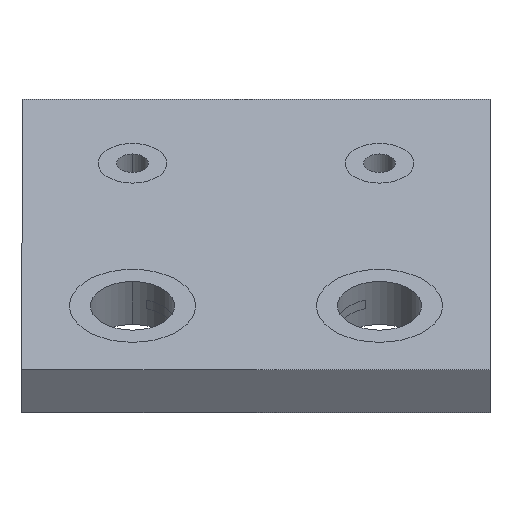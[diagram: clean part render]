
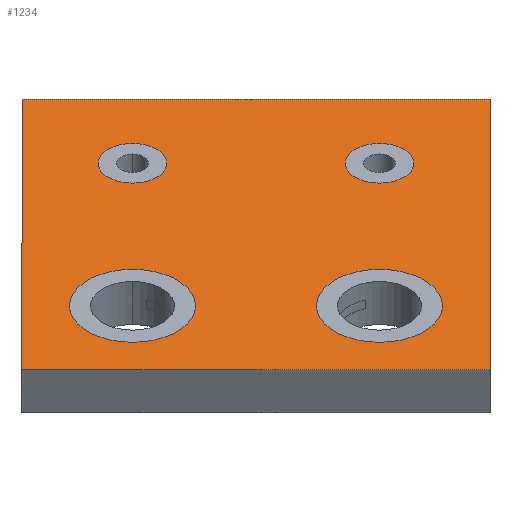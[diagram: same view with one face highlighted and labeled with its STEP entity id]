
A CAD part, isometric view. The second image highlights one B-rep face of the part: STEP entity #1234.
In plain terms, the highlighted planar face has unit normal (0, 0, 1).
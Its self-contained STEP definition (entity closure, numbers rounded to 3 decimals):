
#23 = FACE_BOUND ( 'NONE', #904, .T. ) ;
#56 = VECTOR ( 'NONE', #3299, 1000. ) ;
#77 = ORIENTED_EDGE ( 'NONE', *, *, #2827, .T. ) ;
#103 = ORIENTED_EDGE ( 'NONE', *, *, #1585, .T. ) ;
#198 = CARTESIAN_POINT ( 'NONE',  ( 0., 6.296, 21.48 ) ) ;
#203 = EDGE_CURVE ( 'NONE', #235, #327, #3355, .T. ) ;
#208 = VERTEX_POINT ( 'NONE', #4076 ) ;
#235 = VERTEX_POINT ( 'NONE', #4057 ) ;
#289 = CIRCLE ( 'NONE', #837, 0.655 ) ;
#290 = CARTESIAN_POINT ( 'NONE',  ( 3.148, 3.148, 21.48 ) ) ;
#327 = VERTEX_POINT ( 'NONE', #2207 ) ;
#354 = ORIENTED_EDGE ( 'NONE', *, *, #2299, .T. ) ;
#358 = EDGE_CURVE ( 'NONE', #1091, #208, #2826, .T. ) ;
#392 = CARTESIAN_POINT ( 'NONE',  ( -0.849, -2.475, 21.48 ) ) ;
#440 = CIRCLE ( 'NONE', #3989, 1.2 ) ;
#591 = DIRECTION ( 'NONE',  ( 0., 0., -1. ) ) ;
#606 = ORIENTED_EDGE ( 'NONE', *, *, #2348, .T. ) ;
#618 = DIRECTION ( 'NONE',  ( 0.707, -0.707, 0. ) ) ;
#636 = FACE_OUTER_BOUND ( 'NONE', #3003, .T. ) ;
#642 = CARTESIAN_POINT ( 'NONE',  ( 3.323, 0., 21.48 ) ) ;
#648 = LINE ( 'NONE', #1978, #56 ) ;
#756 = CARTESIAN_POINT ( 'NONE',  ( 0., -3.323, 21.48 ) ) ;
#837 = AXIS2_PLACEMENT_3D ( 'NONE', #1613, #591, #2544 ) ;
#859 = VECTOR ( 'NONE', #4225, 1000. ) ;
#904 = EDGE_LOOP ( 'NONE', ( #2729, #1711 ) ) ;
#906 = VERTEX_POINT ( 'NONE', #2436 ) ;
#943 = DIRECTION ( 'NONE',  ( 0., 0., -1. ) ) ;
#975 = EDGE_CURVE ( 'NONE', #3609, #906, #289, .T. ) ;
#1060 = VERTEX_POINT ( 'NONE', #4224 ) ;
#1075 = EDGE_LOOP ( 'NONE', ( #103, #1469 ) ) ;
#1091 = VERTEX_POINT ( 'NONE', #198 ) ;
#1098 = EDGE_CURVE ( 'NONE', #1825, #4055, #1303, .T. ) ;
#1104 = ORIENTED_EDGE ( 'NONE', *, *, #3165, .T. ) ;
#1108 = DIRECTION ( 'NONE',  ( 0., 0., -1. ) ) ;
#1162 = VECTOR ( 'NONE', #4140, 1000. ) ;
#1197 = CARTESIAN_POINT ( 'NONE',  ( -3.148, -3.148, 21.48 ) ) ;
#1234 = ADVANCED_FACE ( 'NONE', ( #2999, #23, #3345, #2694, #636 ), #2371, .T. ) ;
#1290 = EDGE_CURVE ( 'NONE', #2405, #1060, #2019, .T. ) ;
#1303 = CIRCLE ( 'NONE', #2272, 0.655 ) ;
#1311 = CARTESIAN_POINT ( 'NONE',  ( 3.323, 0., 21.48 ) ) ;
#1331 = DIRECTION ( 'NONE',  ( 0., 0., -1. ) ) ;
#1374 = ORIENTED_EDGE ( 'NONE', *, *, #1290, .T. ) ;
#1426 = CARTESIAN_POINT ( 'NONE',  ( -3.323, 0., 21.48 ) ) ;
#1469 = ORIENTED_EDGE ( 'NONE', *, *, #975, .T. ) ;
#1585 = EDGE_CURVE ( 'NONE', #906, #3609, #4120, .T. ) ;
#1593 = LINE ( 'NONE', #290, #859 ) ;
#1613 = CARTESIAN_POINT ( 'NONE',  ( 0., 3.323, 21.48 ) ) ;
#1656 = DIRECTION ( 'NONE',  ( 0.707, -0.707, 0. ) ) ;
#1665 = AXIS2_PLACEMENT_3D ( 'NONE', #642, #943, #3531 ) ;
#1711 = ORIENTED_EDGE ( 'NONE', *, *, #1098, .T. ) ;
#1725 = DIRECTION ( 'NONE',  ( 1., 0., 0. ) ) ;
#1747 = CARTESIAN_POINT ( 'NONE',  ( 3.787, -0.463, 21.48 ) ) ;
#1825 = VERTEX_POINT ( 'NONE', #3553 ) ;
#1833 = AXIS2_PLACEMENT_3D ( 'NONE', #4124, #2532, #3866 ) ;
#1838 = VECTOR ( 'NONE', #618, 1000. ) ;
#1847 = EDGE_CURVE ( 'NONE', #4055, #1825, #3393, .T. ) ;
#1881 = CARTESIAN_POINT ( 'NONE',  ( -3.148, 3.148, 21.48 ) ) ;
#1934 = AXIS2_PLACEMENT_3D ( 'NONE', #1426, #3673, #3396 ) ;
#1978 = CARTESIAN_POINT ( 'NONE',  ( 3.148, -3.148, 21.48 ) ) ;
#2019 = CIRCLE ( 'NONE', #2570, 1.2 ) ;
#2044 = CARTESIAN_POINT ( 'NONE',  ( -3.323, 0., 21.48 ) ) ;
#2160 = DIRECTION ( 'NONE',  ( -0.707, 0.707, 0. ) ) ;
#2161 = AXIS2_PLACEMENT_3D ( 'NONE', #3366, #4290, #1725 ) ;
#2207 = CARTESIAN_POINT ( 'NONE',  ( -2.475, 0.849, 21.48 ) ) ;
#2218 = EDGE_LOOP ( 'NONE', ( #1374, #77 ) ) ;
#2246 = ORIENTED_EDGE ( 'NONE', *, *, #358, .T. ) ;
#2272 = AXIS2_PLACEMENT_3D ( 'NONE', #1311, #1331, #1656 ) ;
#2298 = ORIENTED_EDGE ( 'NONE', *, *, #3661, .T. ) ;
#2299 = EDGE_CURVE ( 'NONE', #3424, #1091, #1593, .T. ) ;
#2336 = AXIS2_PLACEMENT_3D ( 'NONE', #2044, #3658, #3364 ) ;
#2348 = EDGE_CURVE ( 'NONE', #208, #2836, #3594, .T. ) ;
#2371 = PLANE ( 'NONE',  #2161 ) ;
#2405 = VERTEX_POINT ( 'NONE', #392 ) ;
#2436 = CARTESIAN_POINT ( 'NONE',  ( 0.463, 3.787, 21.48 ) ) ;
#2532 = DIRECTION ( 'NONE',  ( 0., 0., -1. ) ) ;
#2544 = DIRECTION ( 'NONE',  ( 0.707, 0.707, 0. ) ) ;
#2570 = AXIS2_PLACEMENT_3D ( 'NONE', #756, #3787, #4067 ) ;
#2694 = FACE_BOUND ( 'NONE', #2218, .T. ) ;
#2729 = ORIENTED_EDGE ( 'NONE', *, *, #1847, .T. ) ;
#2826 = LINE ( 'NONE', #1881, #1162 ) ;
#2827 = EDGE_CURVE ( 'NONE', #1060, #2405, #440, .T. ) ;
#2836 = VERTEX_POINT ( 'NONE', #3133 ) ;
#2999 = FACE_BOUND ( 'NONE', #1075, .T. ) ;
#3003 = EDGE_LOOP ( 'NONE', ( #354, #2246, #606, #2298 ) ) ;
#3133 = CARTESIAN_POINT ( 'NONE',  ( 0., -6.296, 21.48 ) ) ;
#3162 = CIRCLE ( 'NONE', #2336, 1.2 ) ;
#3165 = EDGE_CURVE ( 'NONE', #327, #235, #3162, .T. ) ;
#3278 = CARTESIAN_POINT ( 'NONE',  ( -0.463, 2.86, 21.48 ) ) ;
#3299 = DIRECTION ( 'NONE',  ( 0.707, 0.707, 0. ) ) ;
#3345 = FACE_BOUND ( 'NONE', #4205, .T. ) ;
#3355 = CIRCLE ( 'NONE', #1934, 1.2 ) ;
#3364 = DIRECTION ( 'NONE',  ( 0.707, 0.707, 0. ) ) ;
#3366 = CARTESIAN_POINT ( 'NONE',  ( 0., 0., 21.48 ) ) ;
#3393 = CIRCLE ( 'NONE', #1665, 0.655 ) ;
#3396 = DIRECTION ( 'NONE',  ( 0.707, 0.707, 0. ) ) ;
#3424 = VERTEX_POINT ( 'NONE', #4194 ) ;
#3531 = DIRECTION ( 'NONE',  ( 0.707, -0.707, 0. ) ) ;
#3553 = CARTESIAN_POINT ( 'NONE',  ( 2.86, 0.463, 21.48 ) ) ;
#3594 = LINE ( 'NONE', #1197, #1838 ) ;
#3609 = VERTEX_POINT ( 'NONE', #3278 ) ;
#3658 = DIRECTION ( 'NONE',  ( 0., 0., -1. ) ) ;
#3661 = EDGE_CURVE ( 'NONE', #2836, #3424, #648, .T. ) ;
#3673 = DIRECTION ( 'NONE',  ( 0., 0., -1. ) ) ;
#3725 = CARTESIAN_POINT ( 'NONE',  ( 0., -3.323, 21.48 ) ) ;
#3751 = ORIENTED_EDGE ( 'NONE', *, *, #203, .T. ) ;
#3787 = DIRECTION ( 'NONE',  ( 0., 0., -1. ) ) ;
#3866 = DIRECTION ( 'NONE',  ( 0.707, 0.707, 0. ) ) ;
#3989 = AXIS2_PLACEMENT_3D ( 'NONE', #3725, #1108, #2160 ) ;
#4055 = VERTEX_POINT ( 'NONE', #1747 ) ;
#4057 = CARTESIAN_POINT ( 'NONE',  ( -4.172, -0.849, 21.48 ) ) ;
#4067 = DIRECTION ( 'NONE',  ( -0.707, 0.707, 0. ) ) ;
#4076 = CARTESIAN_POINT ( 'NONE',  ( -6.296, 0., 21.48 ) ) ;
#4120 = CIRCLE ( 'NONE', #1833, 0.655 ) ;
#4124 = CARTESIAN_POINT ( 'NONE',  ( 0., 3.323, 21.48 ) ) ;
#4140 = DIRECTION ( 'NONE',  ( -0.707, -0.707, 0. ) ) ;
#4194 = CARTESIAN_POINT ( 'NONE',  ( 6.296, 0., 21.48 ) ) ;
#4205 = EDGE_LOOP ( 'NONE', ( #1104, #3751 ) ) ;
#4224 = CARTESIAN_POINT ( 'NONE',  ( 0.849, -4.172, 21.48 ) ) ;
#4225 = DIRECTION ( 'NONE',  ( -0.707, 0.707, 0. ) ) ;
#4290 = DIRECTION ( 'NONE',  ( 0., 0., 1. ) ) ;
